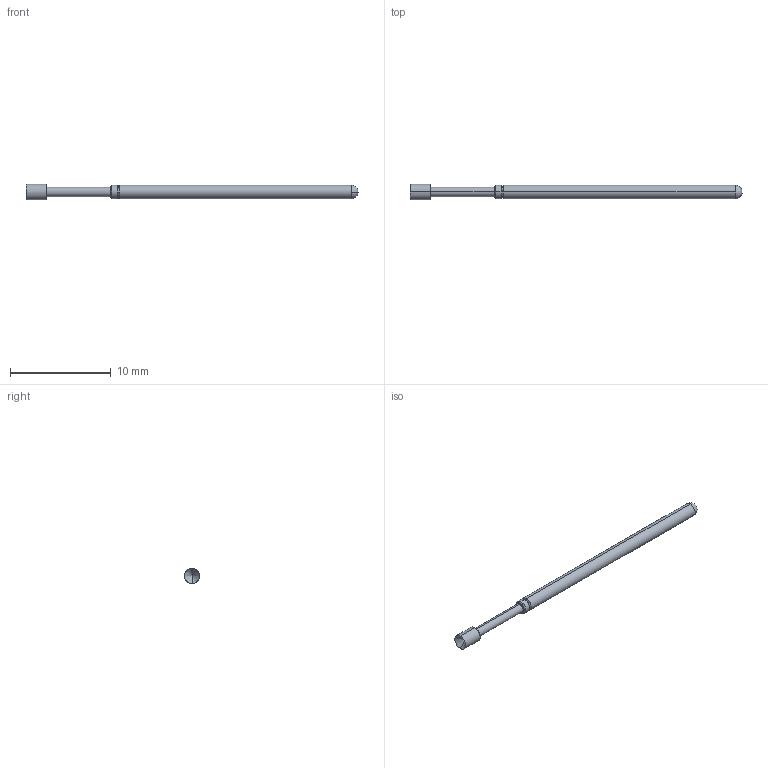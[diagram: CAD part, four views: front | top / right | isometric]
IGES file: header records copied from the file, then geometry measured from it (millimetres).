
Start section: SolidWorks IGES file using analytic representation for surfaces
Global section: file name: Z:\probe solid model mockups\Solidworks models\IGES Files\HCP-25 IGES files\HCP-25A.IGS; native system: SolidWorks 2006 by SolidWorks Corporation; preprocessor: SolidWorks 2006 by SolidWorks Corporation; author: tsakatani; date: 080102.152031; units: inch
Bounding box: 33.02 x 1.52 x 1.52 mm (x, y, z)
Surface area: 138.8 mm2 (no closed solid volume)
Topology: 0 solids, 0 shells, 23 faces, 164 edges, 162 vertices
Faces by surface type: revolution 16, bspline 7
